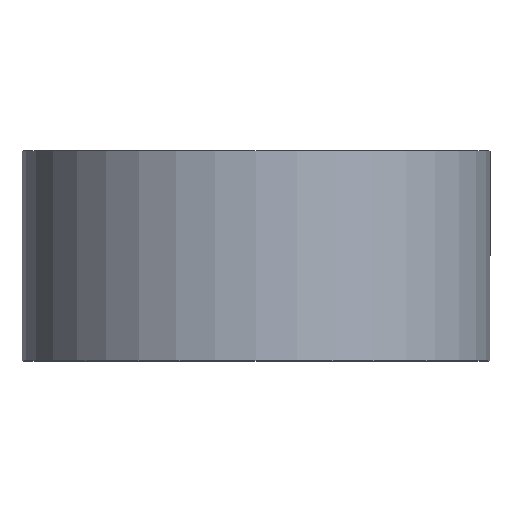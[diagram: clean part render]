
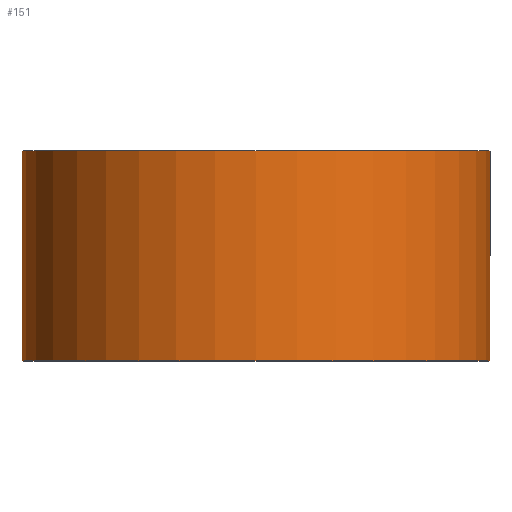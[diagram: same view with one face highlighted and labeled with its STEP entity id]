
A CAD part, top view. The second image highlights one B-rep face of the part: STEP entity #151.
In plain terms, the highlighted cylindrical face has radius 39 mm (diameter 78 mm), a partial arc.
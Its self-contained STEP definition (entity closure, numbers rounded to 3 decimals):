
#4 = CARTESIAN_POINT ( 'NONE',  ( 39., 35., 0. ) ) ;
#5 = DIRECTION ( 'NONE',  ( 0., 1., 0. ) ) ;
#8 = CARTESIAN_POINT ( 'NONE',  ( -39., 35., 0. ) ) ;
#19 = EDGE_CURVE ( 'NONE', #229, #258, #201, .T. ) ;
#27 = DIRECTION ( 'NONE',  ( -1., 0., 0. ) ) ;
#28 = CARTESIAN_POINT ( 'NONE',  ( -39., 0., 0. ) ) ;
#29 = LINE ( 'NONE', #28, #156 ) ;
#32 = EDGE_LOOP ( 'NONE', ( #84, #80, #200, #141 ) ) ;
#34 = DIRECTION ( 'NONE',  ( -1., 0., 0. ) ) ;
#56 = CARTESIAN_POINT ( 'NONE',  ( 0., 0., 0. ) ) ;
#58 = AXIS2_PLACEMENT_3D ( 'NONE', #207, #5, #34 ) ;
#69 = LINE ( 'NONE', #91, #286 ) ;
#75 = CIRCLE ( 'NONE', #105, 39. ) ;
#80 = ORIENTED_EDGE ( 'NONE', *, *, #206, .T. ) ;
#84 = ORIENTED_EDGE ( 'NONE', *, *, #19, .T. ) ;
#89 = CARTESIAN_POINT ( 'NONE',  ( -39., 0., 0. ) ) ;
#91 = CARTESIAN_POINT ( 'NONE',  ( 39., 0., 0. ) ) ;
#105 = AXIS2_PLACEMENT_3D ( 'NONE', #285, #261, #27 ) ;
#107 = DIRECTION ( 'NONE',  ( 0., 1., 0. ) ) ;
#114 = CYLINDRICAL_SURFACE ( 'NONE', #58, 39. ) ;
#141 = ORIENTED_EDGE ( 'NONE', *, *, #168, .F. ) ;
#145 = VERTEX_POINT ( 'NONE', #4 ) ;
#150 = EDGE_CURVE ( 'NONE', #240, #145, #75, .T. ) ;
#151 = ADVANCED_FACE ( 'NONE', ( #196 ), #114, .T. ) ;
#156 = VECTOR ( 'NONE', #243, 1000. ) ;
#168 = EDGE_CURVE ( 'NONE', #229, #240, #29, .T. ) ;
#176 = DIRECTION ( 'NONE',  ( 0., 1., 0. ) ) ;
#196 = FACE_OUTER_BOUND ( 'NONE', #32, .T. ) ;
#200 = ORIENTED_EDGE ( 'NONE', *, *, #150, .F. ) ;
#201 = CIRCLE ( 'NONE', #254, 39. ) ;
#206 = EDGE_CURVE ( 'NONE', #258, #145, #69, .T. ) ;
#207 = CARTESIAN_POINT ( 'NONE',  ( 0., 0., 0. ) ) ;
#219 = DIRECTION ( 'NONE',  ( -1., 0., 0. ) ) ;
#229 = VERTEX_POINT ( 'NONE', #89 ) ;
#235 = CARTESIAN_POINT ( 'NONE',  ( 39., 0., 0. ) ) ;
#240 = VERTEX_POINT ( 'NONE', #8 ) ;
#243 = DIRECTION ( 'NONE',  ( 0., 1., 0. ) ) ;
#254 = AXIS2_PLACEMENT_3D ( 'NONE', #56, #176, #219 ) ;
#258 = VERTEX_POINT ( 'NONE', #235 ) ;
#261 = DIRECTION ( 'NONE',  ( 0., 1., 0. ) ) ;
#285 = CARTESIAN_POINT ( 'NONE',  ( 0., 35., 0. ) ) ;
#286 = VECTOR ( 'NONE', #107, 1000. ) ;
